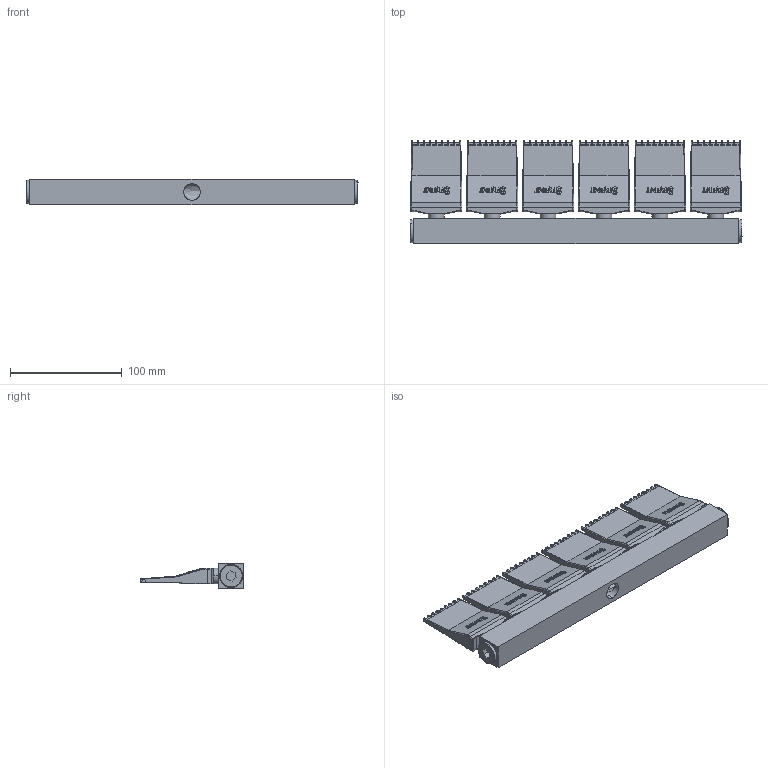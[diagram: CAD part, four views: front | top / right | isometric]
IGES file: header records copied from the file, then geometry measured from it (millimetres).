
Start section: SolidWorks IGES file using analytic representation for surfaces
Global section: file name: G:\Silvent\Ritningar\Övrigt\IGES\Silvent 396.IGS; native system: SolidWorks 2006 by SolidWorks Corporation; preprocessor: SolidWorks 2006 by SolidWorks Corporation; author: SilvRaTi; date: 061220.091153; units: millimetre
Bounding box: 297 x 93 x 23 mm (x, y, z)
Surface area: 93433.1 mm2 (no closed solid volume)
Topology: 0 solids, 0 shells, 1864 faces, 14680 edges, 14668 vertices
Faces by surface type: bspline 1104, revolution 760
